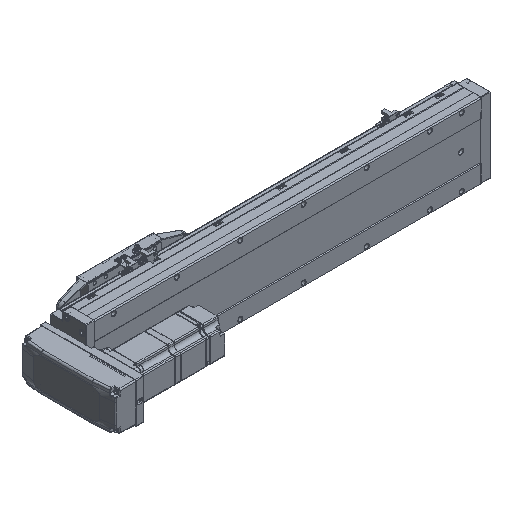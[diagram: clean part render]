
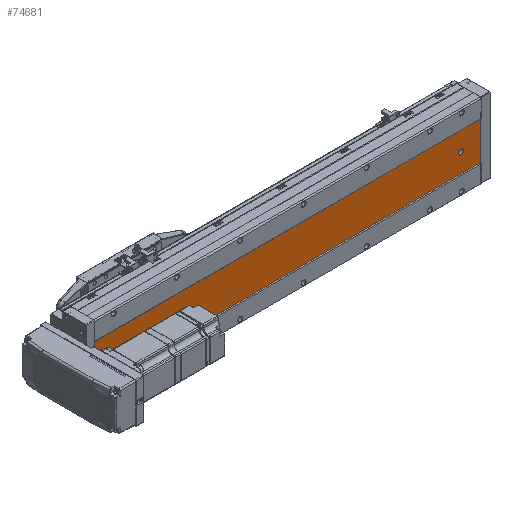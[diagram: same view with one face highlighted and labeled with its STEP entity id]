
A CAD part, isometric view. The second image highlights one B-rep face of the part: STEP entity #74681.
In plain terms, the highlighted planar face has unit normal (0, -1, 0).
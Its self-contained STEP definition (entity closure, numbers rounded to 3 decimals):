
#82 = ORIENTED_EDGE ( 'NONE', *, *, #37200, .F. ) ;
#1485 = CIRCLE ( 'NONE', #52570, 3.5 ) ;
#1578 = LINE ( 'NONE', #40153, #56386 ) ;
#1900 = VECTOR ( 'NONE', #23275, 1000. ) ;
#2974 = CIRCLE ( 'NONE', #47116, 3.5 ) ;
#3136 = ORIENTED_EDGE ( 'NONE', *, *, #36733, .T. ) ;
#3667 = CARTESIAN_POINT ( 'NONE',  ( -39.892, -52.848, 30. ) ) ;
#5173 = ORIENTED_EDGE ( 'NONE', *, *, #20036, .T. ) ;
#5311 = CIRCLE ( 'NONE', #35923, 3.5 ) ;
#5312 = ORIENTED_EDGE ( 'NONE', *, *, #7426, .T. ) ;
#5587 = LINE ( 'NONE', #17187, #1900 ) ;
#5982 = EDGE_LOOP ( 'NONE', ( #40602, #75797, #5312, #5173, #18558 ) ) ;
#7297 = ORIENTED_EDGE ( 'NONE', *, *, #73257, .T. ) ;
#7426 = EDGE_CURVE ( 'NONE', #17237, #51357, #46474, .T. ) ;
#8306 = CARTESIAN_POINT ( 'NONE',  ( -9.892, -52.848, 611. ) ) ;
#9918 = VERTEX_POINT ( 'NONE', #39872 ) ;
#9924 = DIRECTION ( 'NONE',  ( 0., 1., 0. ) ) ;
#11298 = LINE ( 'NONE', #64785, #21310 ) ;
#12107 = CARTESIAN_POINT ( 'NONE',  ( -39.892, -52.848, 26.5 ) ) ;
#12119 = VERTEX_POINT ( 'NONE', #39093 ) ;
#12593 = CARTESIAN_POINT ( 'NONE',  ( -43.392, -52.848, 32. ) ) ;
#14304 = ORIENTED_EDGE ( 'NONE', *, *, #42953, .T. ) ;
#14625 = EDGE_CURVE ( 'NONE', #12119, #53718, #49916, .T. ) ;
#17068 = LINE ( 'NONE', #64060, #41691 ) ;
#17187 = CARTESIAN_POINT ( 'NONE',  ( -36.392, -52.848, 611. ) ) ;
#17237 = VERTEX_POINT ( 'NONE', #31833 ) ;
#17572 = DIRECTION ( 'NONE',  ( 0., 0., -1. ) ) ;
#18558 = ORIENTED_EDGE ( 'NONE', *, *, #32400, .T. ) ;
#19962 = DIRECTION ( 'NONE',  ( 0., 1., 0. ) ) ;
#20036 = EDGE_CURVE ( 'NONE', #51357, #24196, #5311, .T. ) ;
#21310 = VECTOR ( 'NONE', #70637, 1000. ) ;
#23275 = DIRECTION ( 'NONE',  ( 0., 0., -1. ) ) ;
#23870 = AXIS2_PLACEMENT_3D ( 'NONE', #63963, #40897, #75433 ) ;
#24196 = VERTEX_POINT ( 'NONE', #47775 ) ;
#24536 = DIRECTION ( 'NONE',  ( 1., 0., 0. ) ) ;
#24910 = EDGE_LOOP ( 'NONE', ( #66365, #71745 ) ) ;
#24983 = FACE_BOUND ( 'NONE', #5982, .T. ) ;
#26948 = EDGE_CURVE ( 'NONE', #73750, #36077, #61962, .T. ) ;
#27195 = AXIS2_PLACEMENT_3D ( 'NONE', #54988, #42430, #49303 ) ;
#27427 = CARTESIAN_POINT ( 'NONE',  ( -9.892, -52.848, 0. ) ) ;
#28046 = EDGE_CURVE ( 'NONE', #9918, #52184, #1485, .T. ) ;
#28211 = VERTEX_POINT ( 'NONE', #8306 ) ;
#28281 = PLANE ( 'NONE',  #67908 ) ;
#28661 = CARTESIAN_POINT ( 'NONE',  ( -39.892, -52.848, 477.5 ) ) ;
#30309 = CARTESIAN_POINT ( 'NONE',  ( -69.892, -52.848, 0. ) ) ;
#31833 = CARTESIAN_POINT ( 'NONE',  ( -36.392, -52.848, 30. ) ) ;
#32400 = EDGE_CURVE ( 'NONE', #24196, #73750, #69836, .T. ) ;
#35096 = DIRECTION ( 'NONE',  ( 0., 1., 0. ) ) ;
#35923 = AXIS2_PLACEMENT_3D ( 'NONE', #3667, #50284, #68000 ) ;
#36000 = VECTOR ( 'NONE', #47431, 1000. ) ;
#36077 = VERTEX_POINT ( 'NONE', #75216 ) ;
#36604 = CARTESIAN_POINT ( 'NONE',  ( -39.892, -52.848, 581. ) ) ;
#36733 = EDGE_CURVE ( 'NONE', #63030, #49176, #53562, .T. ) ;
#36940 = CARTESIAN_POINT ( 'NONE',  ( -39.892, -52.848, 584.5 ) ) ;
#37200 = EDGE_CURVE ( 'NONE', #28211, #49176, #17068, .T. ) ;
#37773 = CARTESIAN_POINT ( 'NONE',  ( -39.892, -52.848, 481. ) ) ;
#38033 = VECTOR ( 'NONE', #24536, 1000. ) ;
#38699 = CARTESIAN_POINT ( 'NONE',  ( -39.892, -52.848, 30. ) ) ;
#38975 = EDGE_CURVE ( 'NONE', #55309, #28211, #11298, .T. ) ;
#39093 = CARTESIAN_POINT ( 'NONE',  ( -39.892, -52.848, 484.5 ) ) ;
#39425 = EDGE_CURVE ( 'NONE', #53718, #12119, #2974, .T. ) ;
#39872 = CARTESIAN_POINT ( 'NONE',  ( -39.892, -52.848, 577.5 ) ) ;
#40152 = EDGE_CURVE ( 'NONE', #36077, #17237, #5587, .T. ) ;
#40153 = CARTESIAN_POINT ( 'NONE',  ( -69.892, -52.848, 611. ) ) ;
#40602 = ORIENTED_EDGE ( 'NONE', *, *, #26948, .T. ) ;
#40897 = DIRECTION ( 'NONE',  ( 0., 1., 0. ) ) ;
#41691 = VECTOR ( 'NONE', #17572, 1000. ) ;
#41840 = CARTESIAN_POINT ( 'NONE',  ( -43.392, -52.848, 611. ) ) ;
#42430 = DIRECTION ( 'NONE',  ( 0., 1., 0. ) ) ;
#42687 = DIRECTION ( 'NONE',  ( 0., 1., 0. ) ) ;
#42953 = EDGE_CURVE ( 'NONE', #55309, #63030, #1578, .T. ) ;
#43170 = FACE_BOUND ( 'NONE', #57768, .T. ) ;
#44078 = EDGE_LOOP ( 'NONE', ( #3136, #82, #72259, #14304 ) ) ;
#46474 = CIRCLE ( 'NONE', #55306, 3.5 ) ;
#46769 = CARTESIAN_POINT ( 'NONE',  ( -69.892, -52.848, 611. ) ) ;
#46808 = FACE_BOUND ( 'NONE', #24910, .T. ) ;
#47116 = AXIS2_PLACEMENT_3D ( 'NONE', #37773, #19962, #55166 ) ;
#47431 = DIRECTION ( 'NONE',  ( 0., 0., 1. ) ) ;
#47775 = CARTESIAN_POINT ( 'NONE',  ( -43.392, -52.848, 30. ) ) ;
#49176 = VERTEX_POINT ( 'NONE', #27427 ) ;
#49303 = DIRECTION ( 'NONE',  ( 0., 0., 1. ) ) ;
#49916 = CIRCLE ( 'NONE', #23870, 3.5 ) ;
#49966 = AXIS2_PLACEMENT_3D ( 'NONE', #55598, #9924, #67890 ) ;
#50284 = DIRECTION ( 'NONE',  ( 0., 1., 0. ) ) ;
#50942 = DIRECTION ( 'NONE',  ( 0., 1., 0. ) ) ;
#51357 = VERTEX_POINT ( 'NONE', #12107 ) ;
#52184 = VERTEX_POINT ( 'NONE', #36940 ) ;
#52570 = AXIS2_PLACEMENT_3D ( 'NONE', #36604, #42687, #53457 ) ;
#53457 = DIRECTION ( 'NONE',  ( 0., 0., 1. ) ) ;
#53562 = LINE ( 'NONE', #64647, #38033 ) ;
#53718 = VERTEX_POINT ( 'NONE', #28661 ) ;
#54988 = CARTESIAN_POINT ( 'NONE',  ( -39.892, -52.848, 581. ) ) ;
#55166 = DIRECTION ( 'NONE',  ( 0., 0., 1. ) ) ;
#55306 = AXIS2_PLACEMENT_3D ( 'NONE', #38699, #50942, #56356 ) ;
#55309 = VERTEX_POINT ( 'NONE', #61332 ) ;
#55598 = CARTESIAN_POINT ( 'NONE',  ( -39.892, -52.848, 32. ) ) ;
#56356 = DIRECTION ( 'NONE',  ( 0., 0., 1. ) ) ;
#56386 = VECTOR ( 'NONE', #69082, 1000. ) ;
#57768 = EDGE_LOOP ( 'NONE', ( #68582, #7297 ) ) ;
#58486 = CIRCLE ( 'NONE', #27195, 3.5 ) ;
#61332 = CARTESIAN_POINT ( 'NONE',  ( -69.892, -52.848, 611. ) ) ;
#61962 = CIRCLE ( 'NONE', #49966, 3.5 ) ;
#63030 = VERTEX_POINT ( 'NONE', #30309 ) ;
#63763 = DIRECTION ( 'NONE',  ( 0., 0., 1. ) ) ;
#63963 = CARTESIAN_POINT ( 'NONE',  ( -39.892, -52.848, 481. ) ) ;
#64060 = CARTESIAN_POINT ( 'NONE',  ( -9.892, -52.848, 611. ) ) ;
#64647 = CARTESIAN_POINT ( 'NONE',  ( -69.892, -52.848, 0. ) ) ;
#64785 = CARTESIAN_POINT ( 'NONE',  ( -69.892, -52.848, 611. ) ) ;
#66365 = ORIENTED_EDGE ( 'NONE', *, *, #39425, .T. ) ;
#67890 = DIRECTION ( 'NONE',  ( 0., 0., 1. ) ) ;
#67908 = AXIS2_PLACEMENT_3D ( 'NONE', #46769, #35096, #63763 ) ;
#68000 = DIRECTION ( 'NONE',  ( 0., 0., 1. ) ) ;
#68582 = ORIENTED_EDGE ( 'NONE', *, *, #28046, .T. ) ;
#69082 = DIRECTION ( 'NONE',  ( 0., 0., -1. ) ) ;
#69836 = LINE ( 'NONE', #41840, #36000 ) ;
#70637 = DIRECTION ( 'NONE',  ( 1., 0., 0. ) ) ;
#71745 = ORIENTED_EDGE ( 'NONE', *, *, #14625, .T. ) ;
#72259 = ORIENTED_EDGE ( 'NONE', *, *, #38975, .F. ) ;
#72502 = FACE_OUTER_BOUND ( 'NONE', #44078, .T. ) ;
#73257 = EDGE_CURVE ( 'NONE', #52184, #9918, #58486, .T. ) ;
#73750 = VERTEX_POINT ( 'NONE', #12593 ) ;
#74681 = ADVANCED_FACE ( 'NONE', ( #24983, #46808, #43170, #72502 ), #28281, .F. ) ;
#75216 = CARTESIAN_POINT ( 'NONE',  ( -36.392, -52.848, 32. ) ) ;
#75433 = DIRECTION ( 'NONE',  ( 0., 0., 1. ) ) ;
#75797 = ORIENTED_EDGE ( 'NONE', *, *, #40152, .T. ) ;
